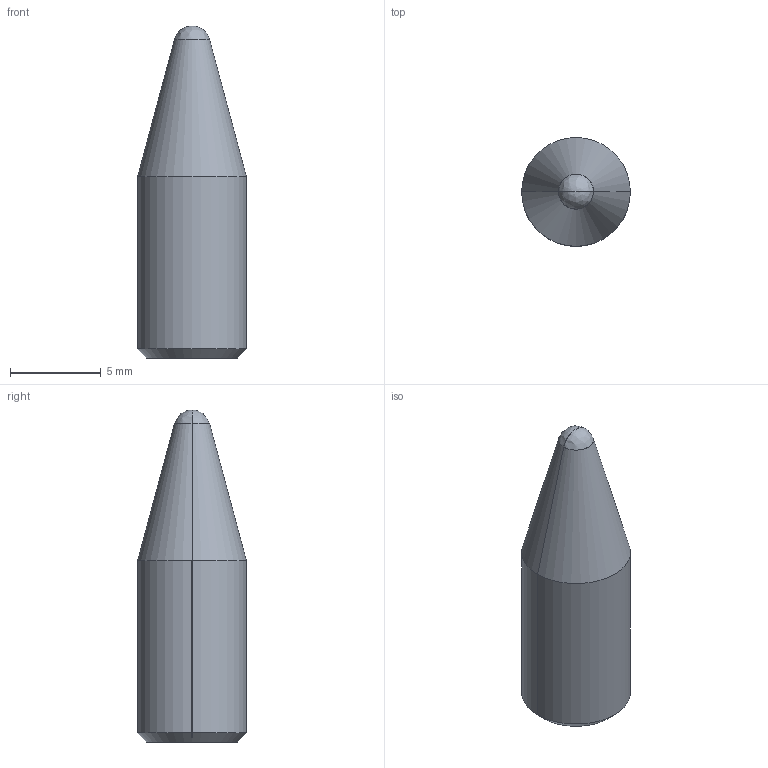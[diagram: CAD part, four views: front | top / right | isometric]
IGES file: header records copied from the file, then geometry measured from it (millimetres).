
Global section: file name: E:\UnigraphicsGraphicData\MISUMI_PRESS-PARTS\IGES\3d_snst6-b10_03101_r00.igs; native system: NX V5.0; preprocessor: UGS NX IGES V5.0; author: MISUMI; date: 20110105.162853; units: millimetre
Bounding box: 6 x 6 x 18.33 mm (x, y, z)
Surface area: 414.1 mm2 (no closed solid volume)
Topology: 0 solids, 0 shells, 12 faces, 64 edges, 62 vertices
Faces by surface type: bspline 12
